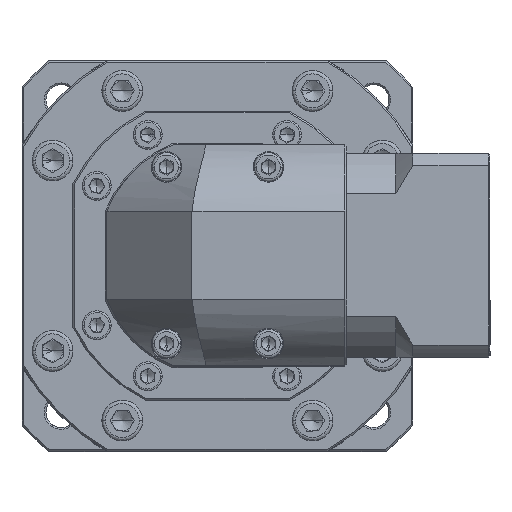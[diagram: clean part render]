
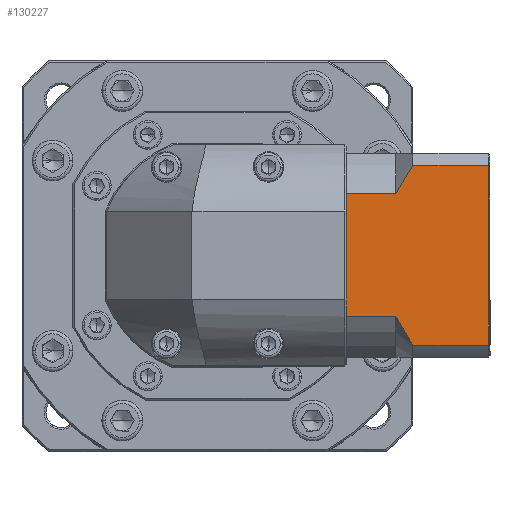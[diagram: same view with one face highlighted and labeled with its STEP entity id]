
A CAD part, top view. The second image highlights one B-rep face of the part: STEP entity #130227.
In plain terms, the highlighted planar face has unit normal (0, 0, 1).
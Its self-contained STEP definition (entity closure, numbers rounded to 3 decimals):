
#286 = CARTESIAN_POINT ( 'NONE',  ( 119.785, 148.031, 32.992 ) ) ;
#1730 = CARTESIAN_POINT ( 'NONE',  ( 119.285, 144.489, 32.992 ) ) ;
#4349 = VERTEX_POINT ( 'NONE', #58094 ) ;
#4802 = CARTESIAN_POINT ( 'NONE',  ( 77.585, 135.068, 32.992 ) ) ;
#5063 = LINE ( 'NONE', #5781, #80052 ) ;
#5781 = CARTESIAN_POINT ( 'NONE',  ( 119.285, 148.031, 32.992 ) ) ;
#8400 = CARTESIAN_POINT ( 'NONE',  ( 77.585, 100.994, 32.992 ) ) ;
#9113 = VERTEX_POINT ( 'NONE', #125831 ) ;
#15760 = CARTESIAN_POINT ( 'NONE',  ( 92.085, 100.003, 32.992 ) ) ;
#16429 = VECTOR ( 'NONE', #18210, 1000. ) ;
#18210 = DIRECTION ( 'NONE',  ( 1., 0., 0. ) ) ;
#18592 = VERTEX_POINT ( 'NONE', #123386 ) ;
#20047 = LINE ( 'NONE', #77000, #16429 ) ;
#24977 = ORIENTED_EDGE ( 'NONE', *, *, #106202, .T. ) ;
#25496 = VECTOR ( 'NONE', #98718, 1000. ) ;
#26202 = CARTESIAN_POINT ( 'NONE',  ( 96.186, 143.129, 32.992 ) ) ;
#27446 = VERTEX_POINT ( 'NONE', #4802 ) ;
#28707 = VERTEX_POINT ( 'NONE', #76241 ) ;
#30047 = EDGE_CURVE ( 'NONE', #47158, #28707, #35683, .T. ) ;
#35683 = B_SPLINE_CURVE_WITH_KNOTS ( 'NONE', 3,
 ( #49125, #26202, #50617, #105919, #38693, #37722 ),
 .UNSPECIFIED., .F., .F.,
 ( 4, 2, 4 ),
 ( 0.052, 0.057, 0.062 ),
 .UNSPECIFIED. ) ;
#36294 = CARTESIAN_POINT ( 'NONE',  ( 97.085, 144.489, 32.992 ) ) ;
#37722 = CARTESIAN_POINT ( 'NONE',  ( 92.085, 136.059, 32.992 ) ) ;
#38693 = CARTESIAN_POINT ( 'NONE',  ( 92.833, 137.511, 32.992 ) ) ;
#41621 = CARTESIAN_POINT ( 'NONE',  ( 77.585, 148.031, 32.992 ) ) ;
#42178 = CARTESIAN_POINT ( 'NONE',  ( 96.184, 92.936, 32.992 ) ) ;
#42382 = ORIENTED_EDGE ( 'NONE', *, *, #42440, .F. ) ;
#42440 = EDGE_CURVE ( 'NONE', #4349, #28707, #20047, .T. ) ;
#43755 = DIRECTION ( 'NONE',  ( 0., 0., -1. ) ) ;
#44188 = ORIENTED_EDGE ( 'NONE', *, *, #124835, .T. ) ;
#45023 = LINE ( 'NONE', #64768, #126910 ) ;
#47158 = VERTEX_POINT ( 'NONE', #36294 ) ;
#47224 = EDGE_CURVE ( 'NONE', #18592, #98803, #133603, .T. ) ;
#48658 = CARTESIAN_POINT ( 'NONE',  ( 97.085, 91.574, 32.992 ) ) ;
#49125 = CARTESIAN_POINT ( 'NONE',  ( 97.085, 144.489, 32.992 ) ) ;
#50175 = CARTESIAN_POINT ( 'NONE',  ( 92.835, 98.547, 32.992 ) ) ;
#50617 = CARTESIAN_POINT ( 'NONE',  ( 95.312, 141.75, 32.992 ) ) ;
#54455 = DIRECTION ( 'NONE',  ( 1., 0., 0. ) ) ;
#55847 = LINE ( 'NONE', #110147, #25496 ) ;
#58094 = CARTESIAN_POINT ( 'NONE',  ( 77.585, 136.059, 32.992 ) ) ;
#58273 = DIRECTION ( 'NONE',  ( 0., -1., 0. ) ) ;
#60197 = VERTEX_POINT ( 'NONE', #8400 ) ;
#62662 = CARTESIAN_POINT ( 'NONE',  ( 77.585, 100.003, 32.992 ) ) ;
#62819 = EDGE_CURVE ( 'NONE', #47158, #78386, #79469, .T. ) ;
#64768 = CARTESIAN_POINT ( 'NONE',  ( 92.085, 100.003, 32.992 ) ) ;
#69526 = ORIENTED_EDGE ( 'NONE', *, *, #30047, .T. ) ;
#73583 = CARTESIAN_POINT ( 'NONE',  ( 92.085, 91.574, 32.992 ) ) ;
#75055 = CARTESIAN_POINT ( 'NONE',  ( 93.636, 97.121, 32.992 ) ) ;
#75873 = EDGE_CURVE ( 'NONE', #60197, #122403, #126175, .T. ) ;
#76241 = CARTESIAN_POINT ( 'NONE',  ( 92.085, 136.059, 32.992 ) ) ;
#77000 = CARTESIAN_POINT ( 'NONE',  ( 92.085, 136.059, 32.992 ) ) ;
#78125 = DIRECTION ( 'NONE',  ( 1., 0., 0. ) ) ;
#78386 = VERTEX_POINT ( 'NONE', #1730 ) ;
#79469 = LINE ( 'NONE', #137666, #127625 ) ;
#80052 = VECTOR ( 'NONE', #107477, 1000. ) ;
#82134 = ORIENTED_EDGE ( 'NONE', *, *, #113311, .T. ) ;
#83645 = AXIS2_PLACEMENT_3D ( 'NONE', #286, #43755, #78125 ) ;
#86535 = CARTESIAN_POINT ( 'NONE',  ( 97.085, 91.574, 32.992 ) ) ;
#88188 = EDGE_CURVE ( 'NONE', #4349, #27446, #55847, .T. ) ;
#90573 = PLANE ( 'NONE',  #83645 ) ;
#95930 = ORIENTED_EDGE ( 'NONE', *, *, #88188, .T. ) ;
#96787 = EDGE_CURVE ( 'NONE', #9113, #122403, #45023, .T. ) ;
#98702 = LINE ( 'NONE', #136981, #143273 ) ;
#98718 = DIRECTION ( 'NONE',  ( 0., -1., 0. ) ) ;
#98803 = VERTEX_POINT ( 'NONE', #48658 ) ;
#98936 = ORIENTED_EDGE ( 'NONE', *, *, #47224, .F. ) ;
#99748 = ORIENTED_EDGE ( 'NONE', *, *, #96787, .F. ) ;
#105919 = CARTESIAN_POINT ( 'NONE',  ( 93.637, 138.942, 32.992 ) ) ;
#106202 = EDGE_CURVE ( 'NONE', #27446, #60197, #98702, .T. ) ;
#107477 = DIRECTION ( 'NONE',  ( 0., 1., 0. ) ) ;
#110147 = CARTESIAN_POINT ( 'NONE',  ( 77.585, 148.031, 32.992 ) ) ;
#110337 = DIRECTION ( 'NONE',  ( 0., -1., 0. ) ) ;
#113311 = EDGE_CURVE ( 'NONE', #18592, #78386, #5063, .T. ) ;
#120565 = FACE_OUTER_BOUND ( 'NONE', #143148, .T. ) ;
#122403 = VERTEX_POINT ( 'NONE', #62662 ) ;
#123386 = CARTESIAN_POINT ( 'NONE',  ( 119.285, 91.574, 32.992 ) ) ;
#124835 = EDGE_CURVE ( 'NONE', #9113, #98803, #138874, .T. ) ;
#125831 = CARTESIAN_POINT ( 'NONE',  ( 92.085, 100.003, 32.992 ) ) ;
#126175 = LINE ( 'NONE', #41621, #140503 ) ;
#126910 = VECTOR ( 'NONE', #144458, 1000. ) ;
#127625 = VECTOR ( 'NONE', #54455, 1000. ) ;
#130227 = ADVANCED_FACE ( 'NONE', ( #120565 ), #90573, .F. ) ;
#131767 = VECTOR ( 'NONE', #142319, 1000. ) ;
#132308 = ORIENTED_EDGE ( 'NONE', *, *, #62819, .F. ) ;
#133603 = LINE ( 'NONE', #73583, #131767 ) ;
#136981 = CARTESIAN_POINT ( 'NONE',  ( 77.585, 148.031, 32.992 ) ) ;
#137666 = CARTESIAN_POINT ( 'NONE',  ( 92.085, 144.489, 32.992 ) ) ;
#138874 = B_SPLINE_CURVE_WITH_KNOTS ( 'NONE', 3,
 ( #15760, #50175, #75055, #142840, #42178, #86535 ),
 .UNSPECIFIED., .F., .F.,
 ( 4, 2, 4 ),
 ( 0.1, 0.104, 0.109 ),
 .UNSPECIFIED. ) ;
#140503 = VECTOR ( 'NONE', #110337, 1000. ) ;
#142319 = DIRECTION ( 'NONE',  ( -1., 0., 0. ) ) ;
#142840 = CARTESIAN_POINT ( 'NONE',  ( 95.31, 94.316, 32.992 ) ) ;
#143148 = EDGE_LOOP ( 'NONE', ( #98936, #82134, #132308, #69526, #42382, #95930, #24977, #147737, #99748, #44188 ) ) ;
#143273 = VECTOR ( 'NONE', #58273, 1000. ) ;
#144458 = DIRECTION ( 'NONE',  ( -1., 0., 0. ) ) ;
#147737 = ORIENTED_EDGE ( 'NONE', *, *, #75873, .T. ) ;
